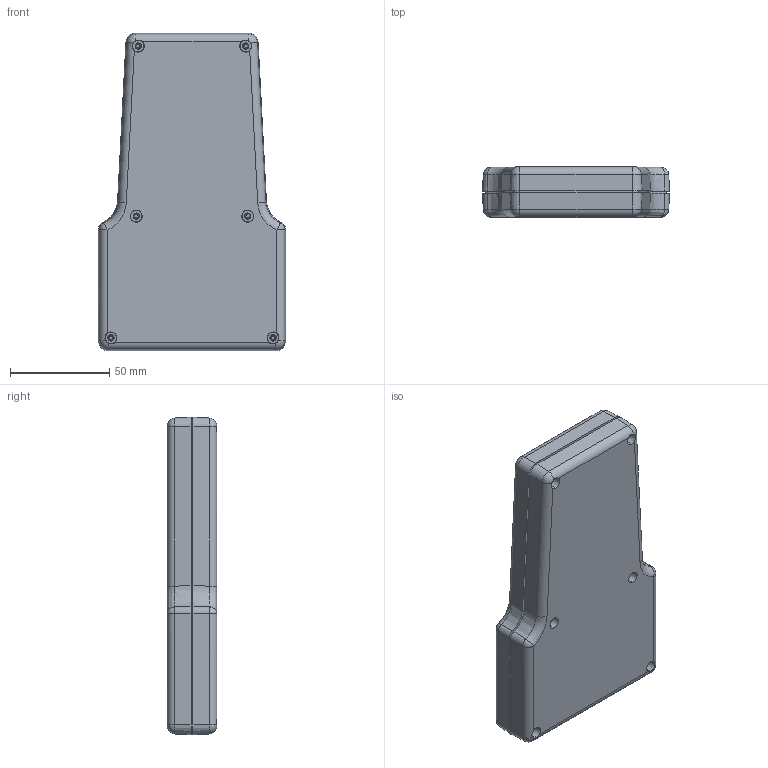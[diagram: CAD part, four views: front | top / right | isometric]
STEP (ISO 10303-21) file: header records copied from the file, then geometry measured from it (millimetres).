
FILE_DESCRIPTION (( 'STEP AP203' ), '1' );
FILE_NAME ('PH097.STEP', '2015-10-15T13:34:10', ( 'admin' ), ( 'Hewlett-Packard Company' ), 'SwSTEP 2.0', 'SolidWorks 2014', '' );
FILE_SCHEMA (( 'CONFIG_CONTROL_DESIGN' ));
Length unit declared in the file: millimetre
Products named in the file (3): PH097
Assembly tree (2 placements, depth 2):
  PH097
    PH097
    PH097
Bounding box: 94.1 x 25 x 159.7 mm (x, y, z)
Volume: 92816.9 mm3; surface area: 76044.4 mm2
Topology: 2 solids, 2 shells, 353 faces, 824 edges, 536 vertices
Faces by surface type: cone 168, plane 127, cylinder 28, bspline 22, torus 8
Entity records: 13366 total; most frequent: CARTESIAN_POINT 4839, DIRECTION 1796, ORIENTED_EDGE 1640, EDGE_CURVE 820, AXIS2_PLACEMENT_3D 724, VERTEX_POINT 536, EDGE_LOOP 430, CIRCLE 388
